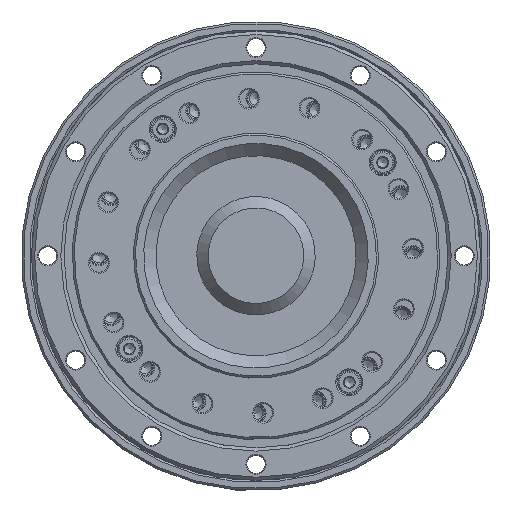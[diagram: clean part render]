
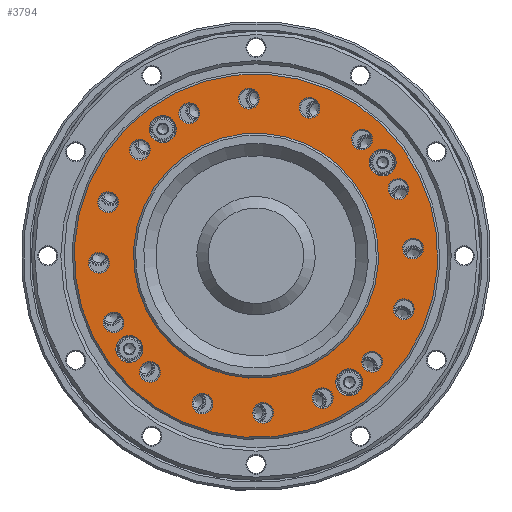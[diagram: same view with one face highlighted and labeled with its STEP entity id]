
A CAD part, top view. The second image highlights one B-rep face of the part: STEP entity #3794.
In plain terms, the highlighted planar face has unit normal (0, 0, 1).
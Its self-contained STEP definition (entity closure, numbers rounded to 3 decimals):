
#3794=ADVANCED_FACE('',(#5494,#5495,#5496,#5497,#5498,#5499,#5500,#5501,
#5502,#5503,#5504,#5505,#5506,#5507,#5508,#5509,#5510,#5511,#5512,#5513,
#5514,#5515),#4244,.T.);
#4244=PLANE('',#16409);
#5494=FACE_BOUND('',#7420,.T.);
#5495=FACE_BOUND('',#7421,.T.);
#5496=FACE_BOUND('',#7422,.T.);
#5497=FACE_BOUND('',#7423,.T.);
#5498=FACE_BOUND('',#7424,.T.);
#5499=FACE_BOUND('',#7425,.T.);
#5500=FACE_BOUND('',#7426,.T.);
#5501=FACE_BOUND('',#7427,.T.);
#5502=FACE_BOUND('',#7428,.T.);
#5503=FACE_BOUND('',#7429,.T.);
#5504=FACE_BOUND('',#7430,.T.);
#5505=FACE_BOUND('',#7431,.T.);
#5506=FACE_BOUND('',#7432,.T.);
#5507=FACE_BOUND('',#7433,.T.);
#5508=FACE_BOUND('',#7434,.T.);
#5509=FACE_BOUND('',#7435,.T.);
#5510=FACE_BOUND('',#7436,.T.);
#5511=FACE_BOUND('',#7437,.T.);
#5512=FACE_BOUND('',#7438,.T.);
#5513=FACE_BOUND('',#7439,.T.);
#5514=FACE_BOUND('',#7440,.T.);
#5515=FACE_BOUND('',#7441,.T.);
#7420=EDGE_LOOP('',(#10286));
#7421=EDGE_LOOP('',(#10287));
#7422=EDGE_LOOP('',(#10288));
#7423=EDGE_LOOP('',(#10289));
#7424=EDGE_LOOP('',(#10290));
#7425=EDGE_LOOP('',(#10291));
#7426=EDGE_LOOP('',(#10292));
#7427=EDGE_LOOP('',(#10293));
#7428=EDGE_LOOP('',(#10294));
#7429=EDGE_LOOP('',(#10295));
#7430=EDGE_LOOP('',(#10296));
#7431=EDGE_LOOP('',(#10297));
#7432=EDGE_LOOP('',(#10298));
#7433=EDGE_LOOP('',(#10299));
#7434=EDGE_LOOP('',(#10300));
#7435=EDGE_LOOP('',(#10301));
#7436=EDGE_LOOP('',(#10302));
#7437=EDGE_LOOP('',(#10303));
#7438=EDGE_LOOP('',(#10304));
#7439=EDGE_LOOP('',(#10305));
#7440=EDGE_LOOP('',(#10306));
#7441=EDGE_LOOP('',(#10307));
#10286=ORIENTED_EDGE('',*,*,#13362,.T.);
#10287=ORIENTED_EDGE('',*,*,#13363,.T.);
#10288=ORIENTED_EDGE('',*,*,#13364,.T.);
#10289=ORIENTED_EDGE('',*,*,#13365,.T.);
#10290=ORIENTED_EDGE('',*,*,#13366,.T.);
#10291=ORIENTED_EDGE('',*,*,#13367,.T.);
#10292=ORIENTED_EDGE('',*,*,#13368,.T.);
#10293=ORIENTED_EDGE('',*,*,#13369,.T.);
#10294=ORIENTED_EDGE('',*,*,#13370,.T.);
#10295=ORIENTED_EDGE('',*,*,#13371,.T.);
#10296=ORIENTED_EDGE('',*,*,#13372,.T.);
#10297=ORIENTED_EDGE('',*,*,#13373,.T.);
#10298=ORIENTED_EDGE('',*,*,#13374,.T.);
#10299=ORIENTED_EDGE('',*,*,#13375,.T.);
#10300=ORIENTED_EDGE('',*,*,#13376,.T.);
#10301=ORIENTED_EDGE('',*,*,#13377,.T.);
#10302=ORIENTED_EDGE('',*,*,#13378,.T.);
#10303=ORIENTED_EDGE('',*,*,#13379,.T.);
#10304=ORIENTED_EDGE('',*,*,#13380,.T.);
#10305=ORIENTED_EDGE('',*,*,#13381,.T.);
#10306=ORIENTED_EDGE('',*,*,#13382,.T.);
#10307=ORIENTED_EDGE('',*,*,#13361,.F.);
#11902=VERTEX_POINT('',#29630);
#11903=VERTEX_POINT('',#29633);
#11904=VERTEX_POINT('',#29635);
#11905=VERTEX_POINT('',#29637);
#11906=VERTEX_POINT('',#29639);
#11907=VERTEX_POINT('',#29641);
#11908=VERTEX_POINT('',#29643);
#11909=VERTEX_POINT('',#29645);
#11910=VERTEX_POINT('',#29647);
#11911=VERTEX_POINT('',#29649);
#11912=VERTEX_POINT('',#29651);
#11913=VERTEX_POINT('',#29653);
#11914=VERTEX_POINT('',#29655);
#11915=VERTEX_POINT('',#29657);
#11916=VERTEX_POINT('',#29659);
#11917=VERTEX_POINT('',#29661);
#11918=VERTEX_POINT('',#29663);
#11919=VERTEX_POINT('',#29665);
#11920=VERTEX_POINT('',#29667);
#11921=VERTEX_POINT('',#29669);
#11922=VERTEX_POINT('',#29671);
#11923=VERTEX_POINT('',#29673);
#13361=EDGE_CURVE('',#11902,#11902,#14513,.T.);
#13362=EDGE_CURVE('',#11903,#11903,#14514,.T.);
#13363=EDGE_CURVE('',#11904,#11904,#14515,.T.);
#13364=EDGE_CURVE('',#11905,#11905,#14516,.T.);
#13365=EDGE_CURVE('',#11906,#11906,#14517,.T.);
#13366=EDGE_CURVE('',#11907,#11907,#14518,.T.);
#13367=EDGE_CURVE('',#11908,#11908,#14519,.T.);
#13368=EDGE_CURVE('',#11909,#11909,#14520,.T.);
#13369=EDGE_CURVE('',#11910,#11910,#14521,.T.);
#13370=EDGE_CURVE('',#11911,#11911,#14522,.T.);
#13371=EDGE_CURVE('',#11912,#11912,#14523,.T.);
#13372=EDGE_CURVE('',#11913,#11913,#14524,.T.);
#13373=EDGE_CURVE('',#11914,#11914,#14525,.T.);
#13374=EDGE_CURVE('',#11915,#11915,#14526,.T.);
#13375=EDGE_CURVE('',#11916,#11916,#14527,.T.);
#13376=EDGE_CURVE('',#11917,#11917,#14528,.T.);
#13377=EDGE_CURVE('',#11918,#11918,#14529,.T.);
#13378=EDGE_CURVE('',#11919,#11919,#14530,.T.);
#13379=EDGE_CURVE('',#11920,#11920,#14531,.T.);
#13380=EDGE_CURVE('',#11921,#11921,#14532,.T.);
#13381=EDGE_CURVE('',#11922,#11922,#14533,.T.);
#13382=EDGE_CURVE('',#11923,#11923,#14534,.T.);
#14513=CIRCLE('',#16386,44.5);
#14514=CIRCLE('',#16388,3.3);
#14515=CIRCLE('',#16389,3.3);
#14516=CIRCLE('',#16390,3.3);
#14517=CIRCLE('',#16391,3.3);
#14518=CIRCLE('',#16392,2.55);
#14519=CIRCLE('',#16393,2.55);
#14520=CIRCLE('',#16394,2.55);
#14521=CIRCLE('',#16395,2.55);
#14522=CIRCLE('',#16396,2.55);
#14523=CIRCLE('',#16397,2.55);
#14524=CIRCLE('',#16398,2.55);
#14525=CIRCLE('',#16399,2.55);
#14526=CIRCLE('',#16400,2.55);
#14527=CIRCLE('',#16401,2.55);
#14528=CIRCLE('',#16402,2.55);
#14529=CIRCLE('',#16403,2.55);
#14530=CIRCLE('',#16404,2.55);
#14531=CIRCLE('',#16405,2.55);
#14532=CIRCLE('',#16406,2.55);
#14533=CIRCLE('',#16407,2.55);
#14534=CIRCLE('',#16408,30.);
#16386=AXIS2_PLACEMENT_3D('',#29629,#20357,#20358);
#16388=AXIS2_PLACEMENT_3D('',#29632,#20361,#20362);
#16389=AXIS2_PLACEMENT_3D('',#29634,#20363,#20364);
#16390=AXIS2_PLACEMENT_3D('',#29636,#20365,#20366);
#16391=AXIS2_PLACEMENT_3D('',#29638,#20367,#20368);
#16392=AXIS2_PLACEMENT_3D('',#29640,#20369,#20370);
#16393=AXIS2_PLACEMENT_3D('',#29642,#20371,#20372);
#16394=AXIS2_PLACEMENT_3D('',#29644,#20373,#20374);
#16395=AXIS2_PLACEMENT_3D('',#29646,#20375,#20376);
#16396=AXIS2_PLACEMENT_3D('',#29648,#20377,#20378);
#16397=AXIS2_PLACEMENT_3D('',#29650,#20379,#20380);
#16398=AXIS2_PLACEMENT_3D('',#29652,#20381,#20382);
#16399=AXIS2_PLACEMENT_3D('',#29654,#20383,#20384);
#16400=AXIS2_PLACEMENT_3D('',#29656,#20385,#20386);
#16401=AXIS2_PLACEMENT_3D('',#29658,#20387,#20388);
#16402=AXIS2_PLACEMENT_3D('',#29660,#20389,#20390);
#16403=AXIS2_PLACEMENT_3D('',#29662,#20391,#20392);
#16404=AXIS2_PLACEMENT_3D('',#29664,#20393,#20394);
#16405=AXIS2_PLACEMENT_3D('',#29666,#20395,#20396);
#16406=AXIS2_PLACEMENT_3D('',#29668,#20397,#20398);
#16407=AXIS2_PLACEMENT_3D('',#29670,#20399,#20400);
#16408=AXIS2_PLACEMENT_3D('',#29672,#20401,#20402);
#16409=AXIS2_PLACEMENT_3D('',#29674,#20403,#20404);
#20357=DIRECTION('',(0.,0.,-1.));
#20358=DIRECTION('',(-1.,0.,0.));
#20361=DIRECTION('',(0.,0.,-1.));
#20362=DIRECTION('',(1.,0.,0.));
#20363=DIRECTION('',(0.,0.,-1.));
#20364=DIRECTION('',(1.,0.,0.));
#20365=DIRECTION('',(0.,0.,-1.));
#20366=DIRECTION('',(1.,0.,0.));
#20367=DIRECTION('',(0.,0.,-1.));
#20368=DIRECTION('',(1.,0.,0.));
#20369=DIRECTION('',(0.,0.,-1.));
#20370=DIRECTION('',(1.,0.,0.));
#20371=DIRECTION('',(0.,0.,-1.));
#20372=DIRECTION('',(1.,0.,0.));
#20373=DIRECTION('',(0.,0.,-1.));
#20374=DIRECTION('',(1.,0.,0.));
#20375=DIRECTION('',(0.,0.,-1.));
#20376=DIRECTION('',(1.,0.,0.));
#20377=DIRECTION('',(0.,0.,-1.));
#20378=DIRECTION('',(1.,0.,0.));
#20379=DIRECTION('',(0.,0.,-1.));
#20380=DIRECTION('',(1.,0.,0.));
#20381=DIRECTION('',(0.,0.,-1.));
#20382=DIRECTION('',(1.,0.,0.));
#20383=DIRECTION('',(0.,0.,-1.));
#20384=DIRECTION('',(1.,0.,0.));
#20385=DIRECTION('',(0.,0.,-1.));
#20386=DIRECTION('',(1.,0.,0.));
#20387=DIRECTION('',(0.,0.,-1.));
#20388=DIRECTION('',(1.,0.,0.));
#20389=DIRECTION('',(0.,0.,-1.));
#20390=DIRECTION('',(1.,0.,0.));
#20391=DIRECTION('',(0.,0.,-1.));
#20392=DIRECTION('',(1.,0.,0.));
#20393=DIRECTION('',(0.,0.,-1.));
#20394=DIRECTION('',(1.,0.,0.));
#20395=DIRECTION('',(0.,0.,-1.));
#20396=DIRECTION('',(1.,0.,0.));
#20397=DIRECTION('',(0.,0.,-1.));
#20398=DIRECTION('',(1.,0.,0.));
#20399=DIRECTION('',(0.,0.,-1.));
#20400=DIRECTION('',(1.,0.,0.));
#20401=DIRECTION('',(0.,0.,-1.));
#20402=DIRECTION('',(-1.,0.,0.));
#20403=DIRECTION('',(0.,0.,1.));
#20404=DIRECTION('',(1.,0.,0.));
#29629=CARTESIAN_POINT('',(0.,0.,8.5));
#29630=CARTESIAN_POINT('',(-44.5,0.,8.5));
#29632=CARTESIAN_POINT('',(0.,38.5,8.5));
#29633=CARTESIAN_POINT('',(3.3,38.5,8.5));
#29634=CARTESIAN_POINT('',(38.5,0.,8.5));
#29635=CARTESIAN_POINT('',(41.8,0.,8.5));
#29636=CARTESIAN_POINT('',(0.,-38.5,8.5));
#29637=CARTESIAN_POINT('',(3.3,-38.5,8.5));
#29638=CARTESIAN_POINT('',(-38.5,0.,8.5));
#29639=CARTESIAN_POINT('',(-35.2,0.,8.5));
#29640=CARTESIAN_POINT('',(37.76,7.511,8.5));
#29641=CARTESIAN_POINT('',(40.31,7.511,8.5));
#29642=CARTESIAN_POINT('',(37.76,-7.511,8.5));
#29643=CARTESIAN_POINT('',(40.31,-7.511,8.5));
#29644=CARTESIAN_POINT('',(32.012,-21.389,8.5));
#29645=CARTESIAN_POINT('',(34.562,-21.389,8.5));
#29646=CARTESIAN_POINT('',(21.389,-32.012,8.5));
#29647=CARTESIAN_POINT('',(23.939,-32.012,8.5));
#29648=CARTESIAN_POINT('',(7.511,-37.76,8.5));
#29649=CARTESIAN_POINT('',(10.061,-37.76,8.5));
#29650=CARTESIAN_POINT('',(-7.511,-37.76,8.5));
#29651=CARTESIAN_POINT('',(-4.961,-37.76,8.5));
#29652=CARTESIAN_POINT('',(-21.389,-32.012,8.5));
#29653=CARTESIAN_POINT('',(-18.839,-32.012,8.5));
#29654=CARTESIAN_POINT('',(-32.012,-21.389,8.5));
#29655=CARTESIAN_POINT('',(-29.462,-21.389,8.5));
#29656=CARTESIAN_POINT('',(-37.76,-7.511,8.5));
#29657=CARTESIAN_POINT('',(-35.21,-7.511,8.5));
#29658=CARTESIAN_POINT('',(-37.76,7.511,8.5));
#29659=CARTESIAN_POINT('',(-35.21,7.511,8.5));
#29660=CARTESIAN_POINT('',(-32.012,21.389,8.5));
#29661=CARTESIAN_POINT('',(-29.462,21.389,8.5));
#29662=CARTESIAN_POINT('',(-21.389,32.012,8.5));
#29663=CARTESIAN_POINT('',(-18.839,32.012,8.5));
#29664=CARTESIAN_POINT('',(-7.511,37.76,8.5));
#29665=CARTESIAN_POINT('',(-4.961,37.76,8.5));
#29666=CARTESIAN_POINT('',(7.511,37.76,8.5));
#29667=CARTESIAN_POINT('',(10.061,37.76,8.5));
#29668=CARTESIAN_POINT('',(21.389,32.012,8.5));
#29669=CARTESIAN_POINT('',(23.939,32.012,8.5));
#29670=CARTESIAN_POINT('',(32.012,21.389,8.5));
#29671=CARTESIAN_POINT('',(34.562,21.389,8.5));
#29672=CARTESIAN_POINT('',(0.,0.,8.5));
#29673=CARTESIAN_POINT('',(-30.,0.,8.5));
#29674=CARTESIAN_POINT('',(44.5,0.,8.5));
